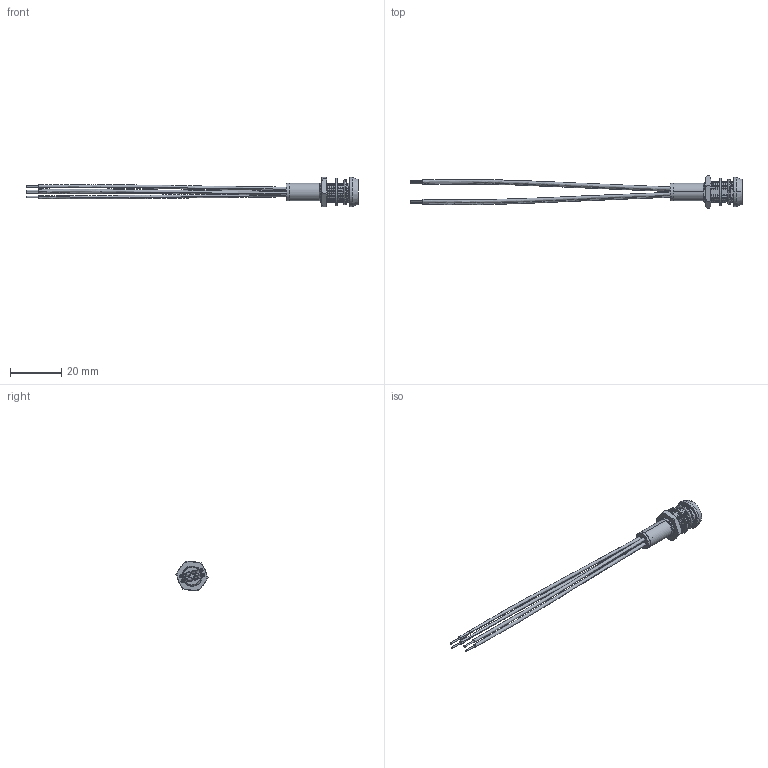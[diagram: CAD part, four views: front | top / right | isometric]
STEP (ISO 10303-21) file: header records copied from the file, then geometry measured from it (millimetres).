
FILE_DESCRIPTION (( 'STEP AP203' ), '1' );
FILE_NAME ('525 RGB.STEP', '2016-08-04T14:41:20', ( '' ), ( '' ), 'SwSTEP 2.0', 'SolidWorks 2016', '' );
FILE_SCHEMA (( 'CONFIG_CONTROL_DESIGN' ));
Length unit declared in the file: millimetre
Products named in the file (24): NSSM038A_part1; D2; COM2236; Board; PCB9287-ASS; COM9307; NSSM038A_part2; R3; COM9290; WIRES 2_5mm strip; 0805_RES; WIRES 2_5mm stripped; NSSM038A.STEP; R1; COM2212; 525 RGB; D1; WIRES_5mm strip; WIRE ASS 2_5mm strips; WIRES_5mm; WIRE ASS_5mm strips; ORING1; R2; 7fs
Assembly tree (26 placements, depth 5):
  525 RGB
    COM9307
    WIRE ASS 2_5mm strips
      WIRES 2_5mm strip
      WIRES 2_5mm stripped
    WIRE ASS_5mm strips
      WIRES_5mm
      WIRES_5mm strip
    COM9290
    7fs
    PCB9287-ASS
      Board
      D1
        0805_RES
      D2
        NSSM038A.STEP
          NSSM038A_part1
          NSSM038A_part2
      R1
        0805_RES
      R2
        0805_RES
      R3
        0805_RES
    ORING1
    COM2212
    COM2236
Bounding box: 130 x 12.64 x 11.59 mm (x, y, z)
Volume: 1316.7 mm3; surface area: 4216.4 mm2
Topology: 17 solids, 17 shells, 549 faces, 1441 edges, 943 vertices
Faces by surface type: plane 282, cylinder 121, bspline 98, cone 42, torus 6
Entity records: 38795 total; most frequent: CARTESIAN_POINT 25110, ORIENTED_EDGE 2594, DIRECTION 1983, EDGE_CURVE 1297, VERTEX_POINT 847, AXIS2_PLACEMENT_3D 686, LINE 611, VECTOR 611
